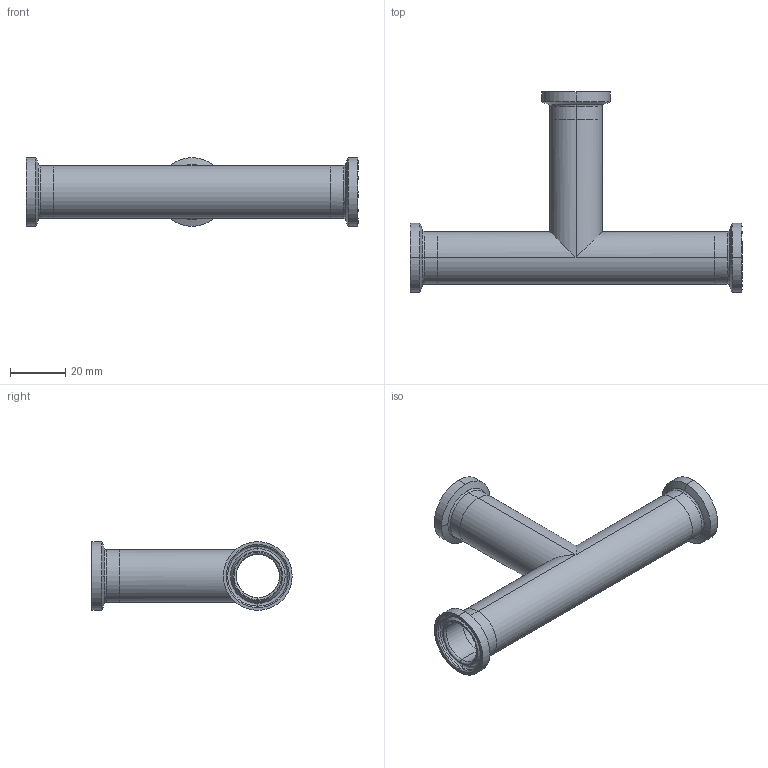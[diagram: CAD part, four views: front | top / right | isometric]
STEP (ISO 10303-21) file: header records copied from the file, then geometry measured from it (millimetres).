
FILE_DESCRIPTION (( 'STEP AP214' ), '1' );
FILE_NAME ('TEG76L.75-...STEP', '2016-05-23T06:38:13', ( 'eran' ), ( '' ), 'SwSTEP 2.0', 'SolidWorks 2016', '' );
FILE_SCHEMA (( 'AUTOMOTIVE_DESIGN' ));
Length unit declared in the file: millimetre
Products named in the file (1): TEG76L.75-..
Bounding box: 120.6 x 72.8 x 24.99 mm (x, y, z)
Volume: 17061.5 mm3; surface area: 20913.6 mm2
Topology: 4 solids, 4 shells, 82 faces, 184 edges, 112 vertices
Faces by surface type: cylinder 34, bspline 24, plane 12, cone 12
Entity records: 2657 total; most frequent: CARTESIAN_POINT 787, DIRECTION 406, ORIENTED_EDGE 368, EDGE_CURVE 184, AXIS2_PLACEMENT_3D 179, CIRCLE 120, VERTEX_POINT 112, EDGE_LOOP 94
